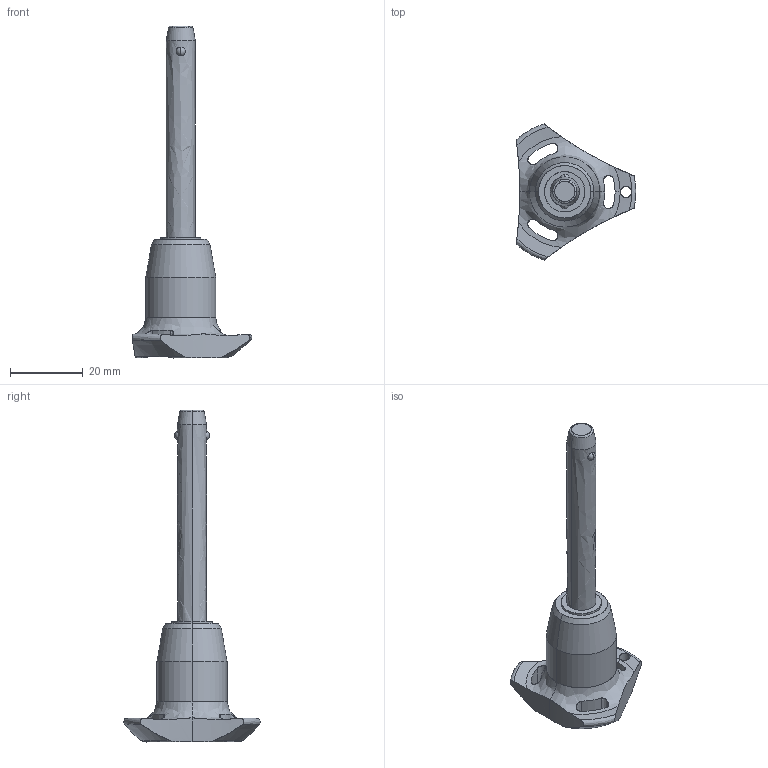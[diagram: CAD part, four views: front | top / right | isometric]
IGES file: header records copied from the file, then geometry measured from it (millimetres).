
Start section: SolidWorks IGES file using analytic representation for surfaces
Global section: file name: C:\Users\ianosborn\Desktop\QR1724_v2\QR1724_v2_20251112_IGES\QR1724.M08-050-S.igs; native system: SolidWorks 2019; preprocessor: SolidWorks 2019; author: IanOsborn; date: 251112.125016; units: millimetre
Bounding box: 33 x 37.51 x 91.5 mm (x, y, z)
Surface area: 5311.2 mm2 (no closed solid volume)
Topology: 0 solids, 0 shells, 65 faces, 1274 edges, 1270 vertices
Faces by surface type: revolution 50, bspline 15
